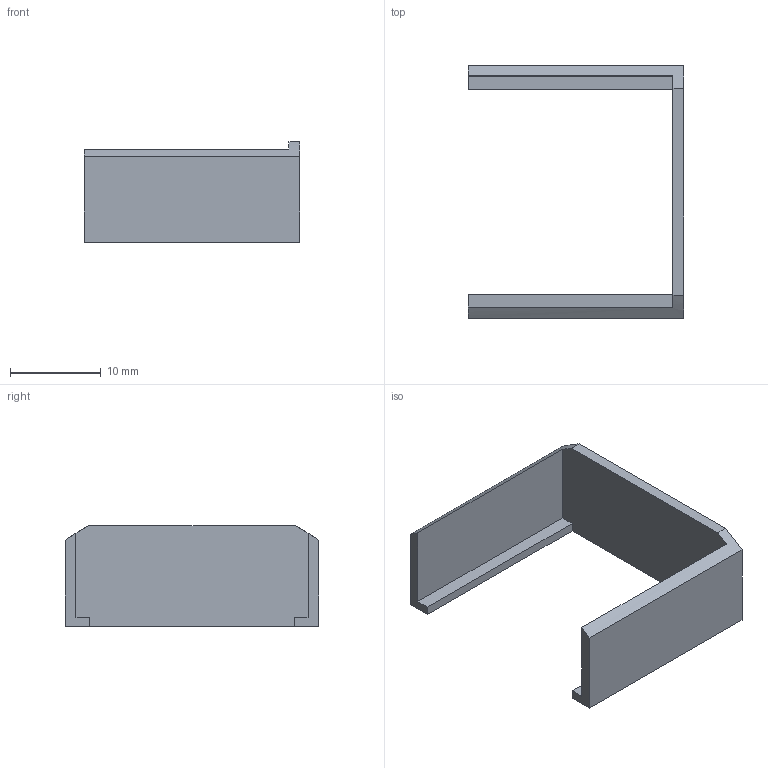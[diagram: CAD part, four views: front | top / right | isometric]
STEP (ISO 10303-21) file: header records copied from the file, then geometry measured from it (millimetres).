
FILE_DESCRIPTION(('SkyG Speed 120B - revision C7B-1 - 2026-10-09','HG-gps-carrier'),'2;1');
FILE_NAME('HG-gps-carrier_C7B-1','2026-10-09T15:13:01',('Author'),( 'Open CASCADE'),'Open CASCADE STEP processor 7.9','Open CASCADE 7.9' ,'Unknown');
FILE_SCHEMA(('AUTOMOTIVE_DESIGN { 1 0 10303 214 1 1 1 1 }'));
Length unit declared in the file: millimetre
Products named in the file (1): HG-gps-carrier C7B-1
Bounding box: 23.8 x 28 x 11.1 mm (x, y, z)
Volume: 972.1 mm3; surface area: 1852.9 mm2
Topology: 1 solids, 1 shells, 16 faces, 42 edges, 28 vertices
Faces by surface type: plane 14, cylinder 2
Entity records: 1042 total; most frequent: CARTESIAN_POINT 195, DIRECTION 152, LINE 102, VECTOR 102, ORIENTED_EDGE 84, PCURVE 84, DEFINITIONAL_REPRESENTATION 84, EDGE_CURVE 42
